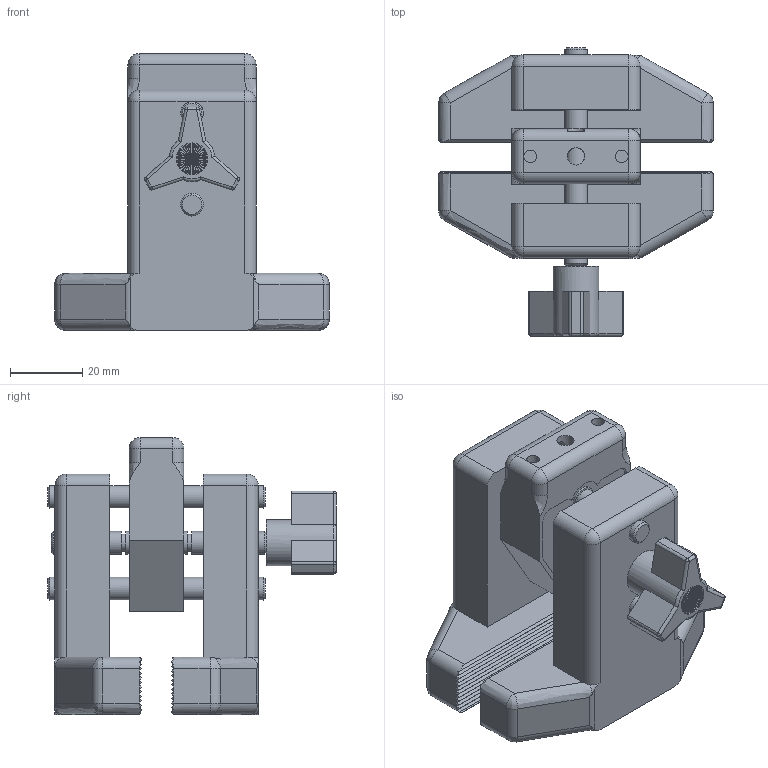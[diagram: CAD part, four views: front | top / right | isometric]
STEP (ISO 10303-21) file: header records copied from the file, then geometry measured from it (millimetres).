
FILE_DESCRIPTION((''),'2;1');
FILE_NAME('F:\CAD files\Itr\3D MARKETING MODELS\GRIPS\G1015-1\G1015-1.stp','2017-04-19T13:01:37',('mlampen'),(''),'Autodesk Inventor 2010','Autodesk Inventor 2010','');
FILE_SCHEMA(('AUTOMOTIVE_DESIGN { 1 0 10303 214 1 1 1 1 }'));
Length unit declared in the file: inch
Products named in the file (6): Assembly1; Part2; Part4; Part6; Part8; Part10
Assembly tree (5 placements, depth 2):
  Assembly1
    Part2
    Part4
    Part6
    Part8
    Part10
Bounding box: 76.2 x 80.04 x 76.83 mm (x, y, z)
Volume: 127777.6 mm3; surface area: 40781.2 mm2
Topology: 10 solids, 16 shells, 685 faces, 2045 edges, 1435 vertices
Faces by surface type: plane 271, cylinder 222, bspline 127, cone 48, sphere 14, torus 3
Full cylindrical faces by diameter (mm): 0.127 x1, 0.381 x1, 0.635 x1, 0.889 x1, 1.041 x12, 1.143 x1, 1.397 x1, 1.651 x1, 1.905 x1, 2.159 x1, 2.413 x1, 2.667 x1, 2.921 x1, 3.175 x1, 3.429 x1, 3.505 x21, 3.683 x1, 3.81 x3, 3.937 x1, 4.191 x1, 4.445 x1, 4.699 x1, 4.75 x2, 4.763 x2, 4.775 x1, 4.826 x5, 4.953 x1, 5.207 x1, 5.461 x1, 5.715 x1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
Entity records: 37808 total; most frequent: CARTESIAN_POINT 21621, ORIENTED_EDGE 3656, DIRECTION 2905, EDGE_CURVE 1828, VERTEX_POINT 1392, AXIS2_PLACEMENT_3D 1140, EDGE_LOOP 930, FACE_OUTER_BOUND 667
